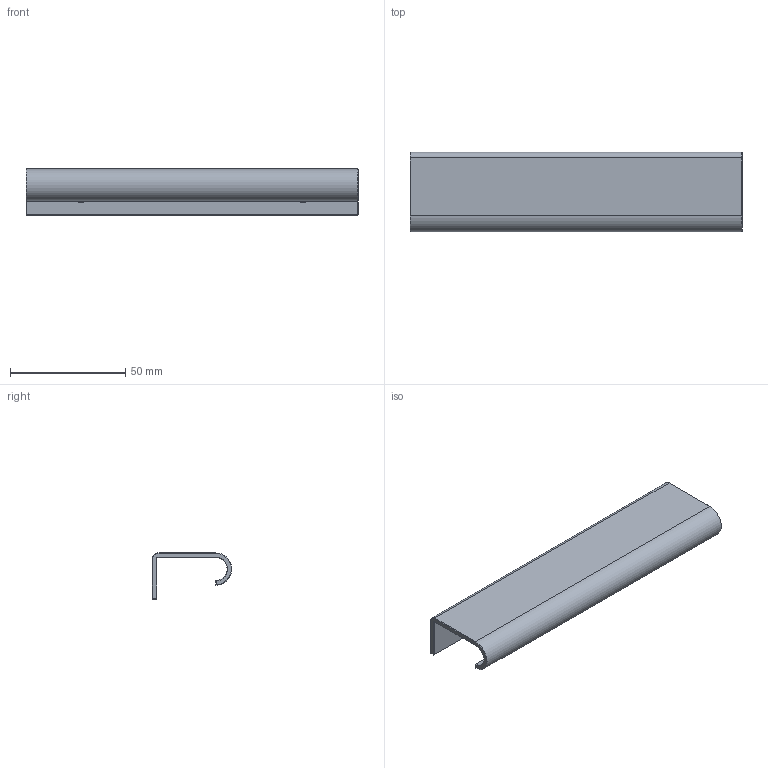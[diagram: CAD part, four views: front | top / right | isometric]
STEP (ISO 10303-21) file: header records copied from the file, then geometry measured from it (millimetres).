
FILE_DESCRIPTION(('Open CASCADE Model'),'2;1');
FILE_NAME('RL-LIP-R-144','2026-10-19T21:24:01',('Author'),( 'Open CASCADE'),'Open CASCADE STEP processor 8.0','build123d', 'Unknown');
FILE_SCHEMA(('AUTOMOTIVE_DESIGN { 1 0 10303 214 1 1 1 1 }'));
Length unit declared in the file: millimetre
Products named in the file (2): RL-LIP-R-144; brass_RL-LIPR144-18__e
Assembly tree (1 placements, depth 2):
  RL-LIP-R-144
    brass_RL-LIPR144-18__e
Bounding box: 144 x 34.5 x 20 mm (x, y, z)
Volume: 18268.5 mm3; surface area: 19090.6 mm2
Topology: 1 solids, 1 shells, 40 faces, 90 edges, 52 vertices
Faces by surface type: plane 20, cone 12, cylinder 8
Full cylindrical faces by diameter (mm): 4.5 x2
Entity records: 2302 total; most frequent: CARTESIAN_POINT 492, DIRECTION 328, ORIENTED_EDGE 180, PCURVE 180, DEFINITIONAL_REPRESENTATION 180, LINE 174, VECTOR 174, EDGE_CURVE 90
